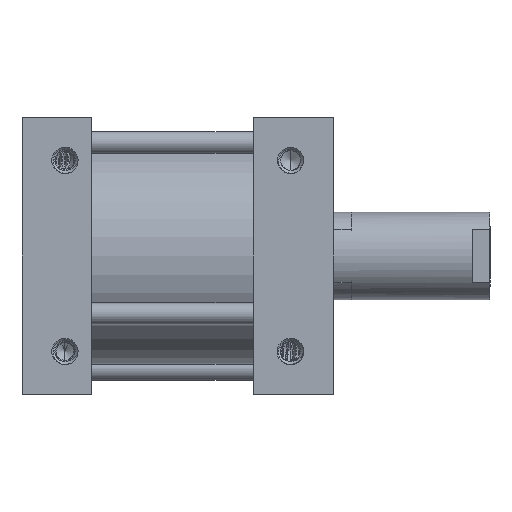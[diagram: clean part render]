
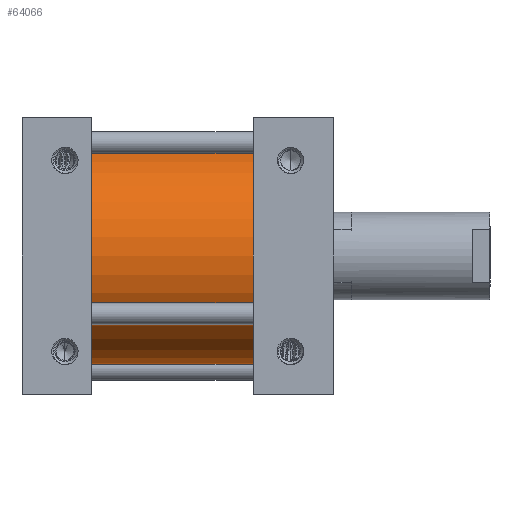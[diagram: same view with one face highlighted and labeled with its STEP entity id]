
A CAD part, front view. The second image highlights one B-rep face of the part: STEP entity #64066.
In plain terms, the highlighted cylindrical face has radius 19.863 mm (diameter 39.726 mm), a partial arc.
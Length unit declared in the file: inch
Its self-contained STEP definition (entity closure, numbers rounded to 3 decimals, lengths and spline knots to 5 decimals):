
#5662 = CARTESIAN_POINT ( 'NONE',  ( 0.5, 0., 0.782 ) ) ;
#5672 = CARTESIAN_POINT ( 'NONE',  ( 0.5, 0., -0.782 ) ) ;
#6137 = CARTESIAN_POINT ( 'NONE',  ( 1.67, 0., -0.782 ) ) ;
#6265 = EDGE_CURVE ( 'NONE', #19775, #96432, #93711, .T. ) ;
#6706 = EDGE_CURVE ( 'NONE', #10382, #10381, #93960, .T. ) ;
#6965 = EDGE_CURVE ( 'NONE', #19775, #10381, #94078, .T. ) ;
#6969 = EDGE_CURVE ( 'NONE', #96432, #10382, #94077, .T. ) ;
#10381 = VERTEX_POINT ( 'NONE', #5672 ) ;
#10382 = VERTEX_POINT ( 'NONE', #5662 ) ;
#19775 = VERTEX_POINT ( 'NONE', #6137 ) ;
#20318 = AXIS2_PLACEMENT_3D ( 'NONE', #104018, #104023, #104026 ) ;
#20452 = AXIS2_PLACEMENT_3D ( 'NONE', #36410, #36425, #36427 ) ;
#22292 = EDGE_LOOP ( 'NONE', ( #66301, #66303, #66305, #66307 ) ) ;
#23046 = CARTESIAN_POINT ( 'NONE',  ( 1.67, 0., 0.782 ) ) ;
#36410 = CARTESIAN_POINT ( 'NONE',  ( 0.5, 0., 0. ) ) ;
#36425 = DIRECTION ( 'NONE',  ( 1., 0., 0. ) ) ;
#36427 = DIRECTION ( 'NONE',  ( 0., 0., -1. ) ) ;
#37925 = CARTESIAN_POINT ( 'NONE',  ( 0.985, 0., -0.782 ) ) ;
#37934 = DIRECTION ( 'NONE',  ( -1., 0., 0. ) ) ;
#37938 = CARTESIAN_POINT ( 'NONE',  ( 0.985, 0., 0.782 ) ) ;
#37939 = DIRECTION ( 'NONE',  ( -1., 0., 0. ) ) ;
#57014 = AXIS2_PLACEMENT_3D ( 'NONE', #58964, #58965, #58960 ) ;
#58960 = DIRECTION ( 'NONE',  ( 0., 0., 1. ) ) ;
#58964 = CARTESIAN_POINT ( 'NONE',  ( 0.985, 0., 0. ) ) ;
#58965 = DIRECTION ( 'NONE',  ( -1., 0., 0. ) ) ;
#63678 = FACE_OUTER_BOUND ( 'NONE', #22292, .T. ) ;
#63687 = CYLINDRICAL_SURFACE ( 'NONE', #57014, 0.782 ) ;
#64066 = ADVANCED_FACE ( 'NONE', ( #63678 ), #63687, .T. ) ;
#66301 = ORIENTED_EDGE ( 'NONE', *, *, #6965, .F. ) ;
#66303 = ORIENTED_EDGE ( 'NONE', *, *, #6265, .T. ) ;
#66305 = ORIENTED_EDGE ( 'NONE', *, *, #6969, .T. ) ;
#66307 = ORIENTED_EDGE ( 'NONE', *, *, #6706, .T. ) ;
#93711 = CIRCLE ( 'NONE', #20318, 0.782 ) ;
#93960 = CIRCLE ( 'NONE', #20452, 0.782 ) ;
#94069 = VECTOR ( 'NONE', #37934, 39.37008 ) ;
#94074 = VECTOR ( 'NONE', #37939, 39.37008 ) ;
#94077 = LINE ( 'NONE', #37938, #94074 ) ;
#94078 = LINE ( 'NONE', #37925, #94069 ) ;
#96432 = VERTEX_POINT ( 'NONE', #23046 ) ;
#104018 = CARTESIAN_POINT ( 'NONE',  ( 1.67, 0., 0. ) ) ;
#104023 = DIRECTION ( 'NONE',  ( -1., 0., 0. ) ) ;
#104026 = DIRECTION ( 'NONE',  ( 0., 0., 1. ) ) ;
